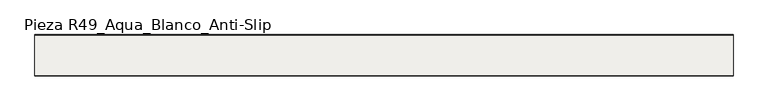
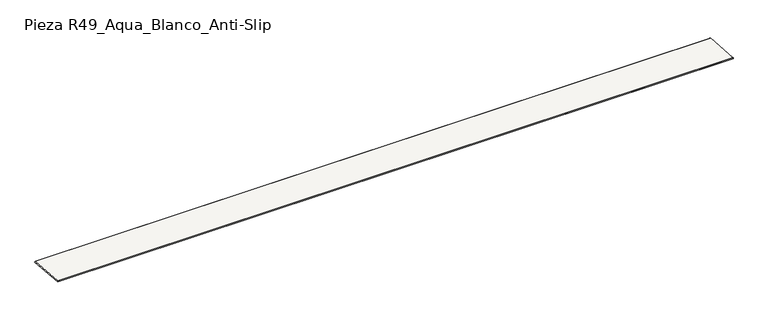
"""IFC4 building model written with IfcOpenShell, lengths in millimetres: slab geometry, ROSA GRES_R49 : Pieza R49_Aqua_Blanco_Anti-Slip."""

from ifc_helpers import new_model, si_unit, point, frame, frame_2d, origin, place, context, project, spatial, polyline, circle_curve, trimmed, segment, composite_curve, outline, extrude, source, transform, mapped, element, save


def pieza_r49_aqua_blanco_anti_slip_6e17b325(model_context):
    return source(origin(), model_context, "Body", "SweptSolid", [
        extrude(outline(composite_curve([segment(polyline([(-70.1539646, 196.3880826), (-366.1749837, 220.4828167), (-365.5494776, 228.1676059)]), True, "CONTINUOUS"), segment(trimmed(circle_curve(frame_2d((-364.7862135, 226.9789488)), 1.4126139), [point((-365.5494776, 228.1676059))], [point((-364.6716123, 228.3869063))], False, "CARTESIAN"), True, "CONTINUOUS"), segment(polyline([(-364.6716123, 228.3869063), (-76.6234074, 204.9411222)]), True, "CONTINUOUS"), segment(trimmed(circle_curve(frame_2d((-77.8482549, 197.189121)), 7.8481701), [point((-76.6234074, 204.9411222))], [point((-70.0315861, 197.89159))], False, "CARTESIAN"), True, "CONTINUOUS"), segment(polyline([(-70.0315861, 197.89159), (-70.1539646, 196.3880826)]), True, "CONTINUOUS")], self_intersect=False)), frame((0.0, 0.0, 0.0), z_axis=(1.0, 0.0, 0.0), x_axis=(0.0, 1.0, 0.0)), (0.0, 0.0, 1.0), 5002.5),
    ])


if __name__ == "__main__":
    model = new_model("IFC4")
    model_context = context("Model", 3, world=origin())
    ifc_project = project(units=[si_unit("LENGTHUNIT", "METRE", prefix="MILLI")], contexts=[model_context])
    site = spatial("IfcSite", under=ifc_project)
    building = spatial("IfcBuilding", under=site)
    placement = place(None, origin())
    pieza_r49_aqua_blanco_anti_slip_shape = pieza_r49_aqua_blanco_anti_slip_6e17b325(model_context)
    element("IfcSlab", 1, ObjectType="ROSA GRES_R49 : Pieza R49_Aqua_Blanco_Anti-Slip", at=placement, inside=building, context=model_context, shape_type="MappedRepresentation", body=[
        mapped(pieza_r49_aqua_blanco_anti_slip_shape, transform((0.0, 0.0, 0.0), x_axis=(1.0, 0.0, 0.0), y_axis=(0.0, 1.0, 0.0), z_axis=(0.0, 0.0, 1.0))),
    ])
    save(model, "model.ifc")
